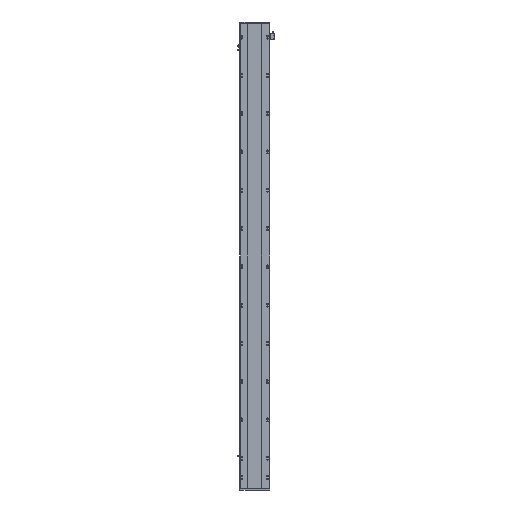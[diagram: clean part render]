
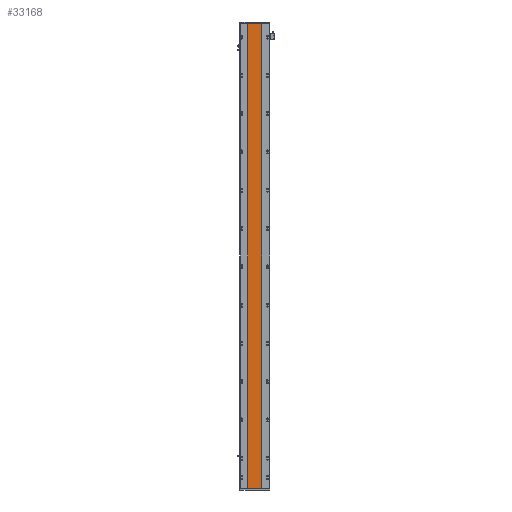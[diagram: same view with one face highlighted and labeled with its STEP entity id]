
A CAD part, front view. The second image highlights one B-rep face of the part: STEP entity #33168.
In plain terms, the highlighted planar face has unit normal (0, -1, 0).
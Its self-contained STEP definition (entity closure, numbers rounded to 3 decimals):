
#679 = CARTESIAN_POINT ( 'NONE',  ( 205.288, 16.9, 0. ) ) ;
#762 = CARTESIAN_POINT ( 'NONE',  ( 205.288, 16.9, 0. ) ) ;
#3713 = LINE ( 'NONE', #28150, #24520 ) ;
#4396 = DIRECTION ( 'NONE',  ( 0., 0., -1. ) ) ;
#5351 = DIRECTION ( 'NONE',  ( 1., 0., 0. ) ) ;
#5909 = EDGE_CURVE ( 'NONE', #19910, #39329, #13673, .T. ) ;
#9485 = CARTESIAN_POINT ( 'NONE',  ( 205.288, 16.9, 2620. ) ) ;
#11425 = VECTOR ( 'NONE', #4396, 1000. ) ;
#11589 = CARTESIAN_POINT ( 'NONE',  ( 205.288, 16.9, 2620. ) ) ;
#12829 = AXIS2_PLACEMENT_3D ( 'NONE', #9485, #33487, #19576 ) ;
#12916 = VERTEX_POINT ( 'NONE', #39163 ) ;
#13486 = EDGE_CURVE ( 'NONE', #39304, #39329, #21299, .T. ) ;
#13673 = LINE ( 'NONE', #762, #38813 ) ;
#15188 = VECTOR ( 'NONE', #22916, 1000. ) ;
#17294 = DIRECTION ( 'NONE',  ( 1., 0., 0. ) ) ;
#19576 = DIRECTION ( 'NONE',  ( -1., 0., 0. ) ) ;
#19910 = VERTEX_POINT ( 'NONE', #34342 ) ;
#20488 = EDGE_LOOP ( 'NONE', ( #27822, #25830, #33366, #26336 ) ) ;
#21299 = LINE ( 'NONE', #11589, #11425 ) ;
#22916 = DIRECTION ( 'NONE',  ( 0., 0., -1. ) ) ;
#24520 = VECTOR ( 'NONE', #17294, 1000. ) ;
#25830 = ORIENTED_EDGE ( 'NONE', *, *, #13486, .F. ) ;
#26336 = ORIENTED_EDGE ( 'NONE', *, *, #30576, .T. ) ;
#26457 = PLANE ( 'NONE',  #12829 ) ;
#27822 = ORIENTED_EDGE ( 'NONE', *, *, #5909, .T. ) ;
#28150 = CARTESIAN_POINT ( 'NONE',  ( 129.288, 16.9, 2620. ) ) ;
#29612 = FACE_OUTER_BOUND ( 'NONE', #20488, .T. ) ;
#30576 = EDGE_CURVE ( 'NONE', #12916, #19910, #45269, .T. ) ;
#33168 = ADVANCED_FACE ( 'NONE', ( #29612 ), #26457, .F. ) ;
#33366 = ORIENTED_EDGE ( 'NONE', *, *, #40334, .F. ) ;
#33487 = DIRECTION ( 'NONE',  ( 0., 1., 0. ) ) ;
#34342 = CARTESIAN_POINT ( 'NONE',  ( 129.288, 16.9, 0. ) ) ;
#35093 = CARTESIAN_POINT ( 'NONE',  ( 205.288, 16.9, 2620. ) ) ;
#38813 = VECTOR ( 'NONE', #5351, 1000. ) ;
#39163 = CARTESIAN_POINT ( 'NONE',  ( 129.288, 16.9, 2620. ) ) ;
#39304 = VERTEX_POINT ( 'NONE', #35093 ) ;
#39329 = VERTEX_POINT ( 'NONE', #679 ) ;
#40334 = EDGE_CURVE ( 'NONE', #12916, #39304, #3713, .T. ) ;
#43822 = CARTESIAN_POINT ( 'NONE',  ( 129.288, 16.9, 2620. ) ) ;
#45269 = LINE ( 'NONE', #43822, #15188 ) ;
